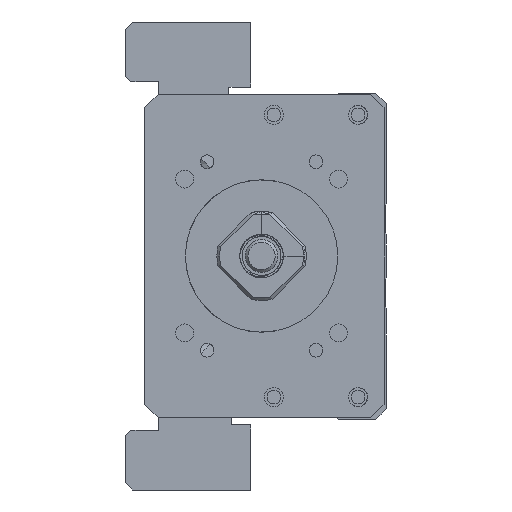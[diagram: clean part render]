
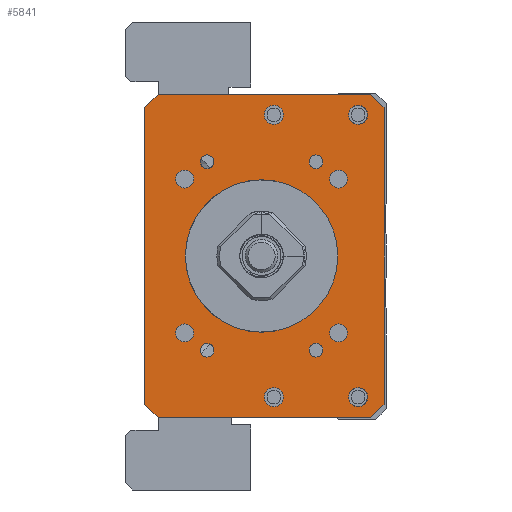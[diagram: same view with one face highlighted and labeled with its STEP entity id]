
A CAD part, left-side view. The second image highlights one B-rep face of the part: STEP entity #5841.
In plain terms, the highlighted planar face has unit normal (-1, 0, 0).
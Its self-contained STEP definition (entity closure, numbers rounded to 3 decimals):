
#4638=FACE_BOUND('',#7618,.T.);
#4639=FACE_BOUND('',#7619,.T.);
#4640=FACE_BOUND('',#7620,.T.);
#4641=FACE_BOUND('',#7621,.T.);
#4642=FACE_BOUND('',#7622,.T.);
#4643=FACE_BOUND('',#7623,.T.);
#4644=FACE_BOUND('',#7624,.T.);
#4645=FACE_BOUND('',#7625,.T.);
#4646=FACE_BOUND('',#7626,.T.);
#4647=FACE_BOUND('',#7627,.T.);
#4648=FACE_BOUND('',#7628,.T.);
#4649=FACE_BOUND('',#7629,.T.);
#4650=FACE_BOUND('',#7630,.T.);
#4651=FACE_BOUND('',#7631,.T.);
#5211=CIRCLE('',#16316,14.);
#5220=CIRCLE('',#16327,1.65);
#5221=CIRCLE('',#16328,1.65);
#5222=CIRCLE('',#16329,1.65);
#5223=CIRCLE('',#16330,1.65);
#5224=CIRCLE('',#16331,1.25);
#5225=CIRCLE('',#16332,1.75);
#5226=CIRCLE('',#16333,1.25);
#5227=CIRCLE('',#16334,1.75);
#5228=CIRCLE('',#16335,1.25);
#5229=CIRCLE('',#16336,1.75);
#5230=CIRCLE('',#16337,1.75);
#5231=CIRCLE('',#16338,1.25);
#5841=ADVANCED_FACE('',(#4638,#4639,#4640,#4641,#4642,#4643,#4644,#4645,
#4646,#4647,#4648,#4649,#4650,#4651),#6413,.F.);
#6413=PLANE('',#16339);
#7618=EDGE_LOOP('',(#9936));
#7619=EDGE_LOOP('',(#9937));
#7620=EDGE_LOOP('',(#9938));
#7621=EDGE_LOOP('',(#9939));
#7622=EDGE_LOOP('',(#9940));
#7623=EDGE_LOOP('',(#9941));
#7624=EDGE_LOOP('',(#9942));
#7625=EDGE_LOOP('',(#9943));
#7626=EDGE_LOOP('',(#9944));
#7627=EDGE_LOOP('',(#9945,#9946,#9947,#9948,#9949,#9950,#9951,#9952));
#7628=EDGE_LOOP('',(#9953));
#7629=EDGE_LOOP('',(#9954));
#7630=EDGE_LOOP('',(#9955));
#7631=EDGE_LOOP('',(#9956));
#9936=ORIENTED_EDGE('',*,*,#13207,.F.);
#9937=ORIENTED_EDGE('',*,*,#13208,.F.);
#9938=ORIENTED_EDGE('',*,*,#13209,.F.);
#9939=ORIENTED_EDGE('',*,*,#13210,.F.);
#9940=ORIENTED_EDGE('',*,*,#13211,.F.);
#9941=ORIENTED_EDGE('',*,*,#13212,.T.);
#9942=ORIENTED_EDGE('',*,*,#13213,.F.);
#9943=ORIENTED_EDGE('',*,*,#13214,.F.);
#9944=ORIENTED_EDGE('',*,*,#13215,.F.);
#9945=ORIENTED_EDGE('',*,*,#13204,.T.);
#9946=ORIENTED_EDGE('',*,*,#13216,.T.);
#9947=ORIENTED_EDGE('',*,*,#13217,.F.);
#9948=ORIENTED_EDGE('',*,*,#13218,.T.);
#9949=ORIENTED_EDGE('',*,*,#13219,.F.);
#9950=ORIENTED_EDGE('',*,*,#13220,.T.);
#9951=ORIENTED_EDGE('',*,*,#13221,.T.);
#9952=ORIENTED_EDGE('',*,*,#13222,.T.);
#9953=ORIENTED_EDGE('',*,*,#13223,.F.);
#9954=ORIENTED_EDGE('',*,*,#13224,.F.);
#9955=ORIENTED_EDGE('',*,*,#13225,.F.);
#9956=ORIENTED_EDGE('',*,*,#13184,.F.);
#11826=VERTEX_POINT('',#22737);
#11846=VERTEX_POINT('',#22797);
#11847=VERTEX_POINT('',#22799);
#11849=VERTEX_POINT('',#22805);
#11850=VERTEX_POINT('',#22807);
#11851=VERTEX_POINT('',#22809);
#11852=VERTEX_POINT('',#22811);
#11853=VERTEX_POINT('',#22813);
#11854=VERTEX_POINT('',#22815);
#11855=VERTEX_POINT('',#22817);
#11856=VERTEX_POINT('',#22819);
#11857=VERTEX_POINT('',#22821);
#11858=VERTEX_POINT('',#22823);
#11859=VERTEX_POINT('',#22825);
#11860=VERTEX_POINT('',#22827);
#11861=VERTEX_POINT('',#22829);
#11862=VERTEX_POINT('',#22831);
#11863=VERTEX_POINT('',#22833);
#11864=VERTEX_POINT('',#22836);
#11865=VERTEX_POINT('',#22838);
#11866=VERTEX_POINT('',#22840);
#13184=EDGE_CURVE('',#11826,#11826,#5211,.T.);
#13204=EDGE_CURVE('',#11847,#11846,#14466,.T.);
#13207=EDGE_CURVE('',#11849,#11849,#5220,.T.);
#13208=EDGE_CURVE('',#11850,#11850,#5221,.T.);
#13209=EDGE_CURVE('',#11851,#11851,#5222,.T.);
#13210=EDGE_CURVE('',#11852,#11852,#5223,.T.);
#13211=EDGE_CURVE('',#11853,#11853,#5224,.T.);
#13212=EDGE_CURVE('',#11854,#11854,#5225,.T.);
#13213=EDGE_CURVE('',#11855,#11855,#5226,.T.);
#13214=EDGE_CURVE('',#11856,#11856,#5227,.T.);
#13215=EDGE_CURVE('',#11857,#11857,#5228,.T.);
#13216=EDGE_CURVE('',#11846,#11858,#14468,.T.);
#13217=EDGE_CURVE('',#11859,#11858,#14469,.T.);
#13218=EDGE_CURVE('',#11859,#11860,#14470,.T.);
#13219=EDGE_CURVE('',#11861,#11860,#14471,.T.);
#13220=EDGE_CURVE('',#11861,#11862,#14472,.T.);
#13221=EDGE_CURVE('',#11862,#11863,#14473,.T.);
#13222=EDGE_CURVE('',#11863,#11847,#14474,.T.);
#13223=EDGE_CURVE('',#11864,#11864,#5229,.T.);
#13224=EDGE_CURVE('',#11865,#11865,#5230,.T.);
#13225=EDGE_CURVE('',#11866,#11866,#5231,.T.);
#14466=LINE('',#22798,#15391);
#14468=LINE('',#22822,#15393);
#14469=LINE('',#22824,#15394);
#14470=LINE('',#22826,#15395);
#14471=LINE('',#22828,#15396);
#14472=LINE('',#22830,#15397);
#14473=LINE('',#22832,#15398);
#14474=LINE('',#22834,#15399);
#15391=VECTOR('',#18809,1.);
#15393=VECTOR('',#18833,1.);
#15394=VECTOR('',#18834,1.);
#15395=VECTOR('',#18835,1.);
#15396=VECTOR('',#18836,1.);
#15397=VECTOR('',#18837,1.);
#15398=VECTOR('',#18838,1.);
#15399=VECTOR('',#18839,1.);
#16316=AXIS2_PLACEMENT_3D('',#22736,#18783,#18784);
#16327=AXIS2_PLACEMENT_3D('',#22804,#18815,#18816);
#16328=AXIS2_PLACEMENT_3D('',#22806,#18817,#18818);
#16329=AXIS2_PLACEMENT_3D('',#22808,#18819,#18820);
#16330=AXIS2_PLACEMENT_3D('',#22810,#18821,#18822);
#16331=AXIS2_PLACEMENT_3D('',#22812,#18823,#18824);
#16332=AXIS2_PLACEMENT_3D('',#22814,#18825,#18826);
#16333=AXIS2_PLACEMENT_3D('',#22816,#18827,#18828);
#16334=AXIS2_PLACEMENT_3D('',#22818,#18829,#18830);
#16335=AXIS2_PLACEMENT_3D('',#22820,#18831,#18832);
#16336=AXIS2_PLACEMENT_3D('',#22835,#18840,#18841);
#16337=AXIS2_PLACEMENT_3D('',#22837,#18842,#18843);
#16338=AXIS2_PLACEMENT_3D('',#22839,#18844,#18845);
#16339=AXIS2_PLACEMENT_3D('',#22841,#18846,#18847);
#18783=DIRECTION('',(-1.,0.,0.));
#18784=DIRECTION('',(0.,1.,0.));
#18809=DIRECTION('',(0.,0.,-1.));
#18815=DIRECTION('',(-1.,0.,0.));
#18816=DIRECTION('',(0.,0.,1.));
#18817=DIRECTION('',(-1.,0.,0.));
#18818=DIRECTION('',(0.,0.,1.));
#18819=DIRECTION('',(-1.,0.,0.));
#18820=DIRECTION('',(0.,0.,1.));
#18821=DIRECTION('',(-1.,0.,0.));
#18822=DIRECTION('',(0.,0.,1.));
#18823=DIRECTION('',(-1.,0.,0.));
#18824=DIRECTION('',(0.,1.,0.));
#18825=DIRECTION('',(1.,0.,0.));
#18826=DIRECTION('',(0.,0.,1.));
#18827=DIRECTION('',(-1.,0.,0.));
#18828=DIRECTION('',(0.,1.,0.));
#18829=DIRECTION('',(-1.,0.,0.));
#18830=DIRECTION('',(0.,0.,1.));
#18831=DIRECTION('',(-1.,0.,0.));
#18832=DIRECTION('',(0.,1.,0.));
#18833=DIRECTION('',(0.,-0.707,-0.707));
#18834=DIRECTION('',(0.,1.,0.));
#18835=DIRECTION('',(0.,-0.707,0.707));
#18836=DIRECTION('',(0.,0.,-1.));
#18837=DIRECTION('',(0.,0.707,0.707));
#18838=DIRECTION('',(0.,1.,0.));
#18839=DIRECTION('',(0.,0.707,-0.707));
#18840=DIRECTION('',(-1.,0.,0.));
#18841=DIRECTION('',(0.,0.,1.));
#18842=DIRECTION('',(-1.,0.,0.));
#18843=DIRECTION('',(0.,0.,1.));
#18844=DIRECTION('',(-1.,0.,0.));
#18845=DIRECTION('',(0.,1.,0.));
#18846=DIRECTION('',(1.,0.,0.));
#18847=DIRECTION('',(0.,1.,0.));
#22736=CARTESIAN_POINT('',(-211.,0.,-200.));
#22737=CARTESIAN_POINT('',(-211.,14.,-200.));
#22797=CARTESIAN_POINT('',(-211.,21.499,-227.25));
#22798=CARTESIAN_POINT('',(-211.,21.499,-170.25));
#22799=CARTESIAN_POINT('',(-211.,21.499,-172.75));
#22804=CARTESIAN_POINT('',(-211.,14.142,-185.858));
#22805=CARTESIAN_POINT('',(-211.,14.142,-184.208));
#22806=CARTESIAN_POINT('',(-211.,-14.142,-185.858));
#22807=CARTESIAN_POINT('',(-211.,-14.142,-184.208));
#22808=CARTESIAN_POINT('',(-211.,14.142,-214.142));
#22809=CARTESIAN_POINT('',(-211.,14.142,-212.492));
#22810=CARTESIAN_POINT('',(-211.,-14.142,-214.142));
#22811=CARTESIAN_POINT('',(-211.,-14.142,-212.492));
#22812=CARTESIAN_POINT('',(-211.,-10.,-217.321));
#22813=CARTESIAN_POINT('',(-211.,-8.75,-217.321));
#22814=CARTESIAN_POINT('',(-211.,-2.25,-225.936));
#22815=CARTESIAN_POINT('',(-211.,-2.25,-224.186));
#22816=CARTESIAN_POINT('',(-211.,10.,-182.679));
#22817=CARTESIAN_POINT('',(-211.,11.25,-182.679));
#22818=CARTESIAN_POINT('',(-211.,-2.25,-174.064));
#22819=CARTESIAN_POINT('',(-211.,-2.25,-172.314));
#22820=CARTESIAN_POINT('',(-211.,10.,-217.321));
#22821=CARTESIAN_POINT('',(-211.,11.25,-217.321));
#22822=CARTESIAN_POINT('',(-211.,18.999,-229.75));
#22823=CARTESIAN_POINT('',(-211.,18.999,-229.75));
#22824=CARTESIAN_POINT('',(-211.,-22.501,-229.75));
#22825=CARTESIAN_POINT('',(-211.,-20.001,-229.75));
#22826=CARTESIAN_POINT('',(-211.,-22.501,-227.25));
#22827=CARTESIAN_POINT('',(-211.,-22.501,-227.25));
#22828=CARTESIAN_POINT('',(-211.,-22.501,-170.25));
#22829=CARTESIAN_POINT('',(-211.,-22.501,-172.75));
#22830=CARTESIAN_POINT('',(-211.,-22.501,-172.75));
#22831=CARTESIAN_POINT('',(-211.,-20.001,-170.25));
#22832=CARTESIAN_POINT('',(-211.,-22.501,-170.25));
#22833=CARTESIAN_POINT('',(-211.,18.999,-170.25));
#22834=CARTESIAN_POINT('',(-211.,18.999,-170.25));
#22835=CARTESIAN_POINT('',(-211.,-17.75,-174.064));
#22836=CARTESIAN_POINT('',(-211.,-17.75,-172.314));
#22837=CARTESIAN_POINT('',(-211.,-17.75,-225.936));
#22838=CARTESIAN_POINT('',(-211.,-17.75,-224.186));
#22839=CARTESIAN_POINT('',(-211.,-10.,-182.679));
#22840=CARTESIAN_POINT('',(-211.,-8.75,-182.679));
#22841=CARTESIAN_POINT('',(-211.,-22.501,-170.25));
